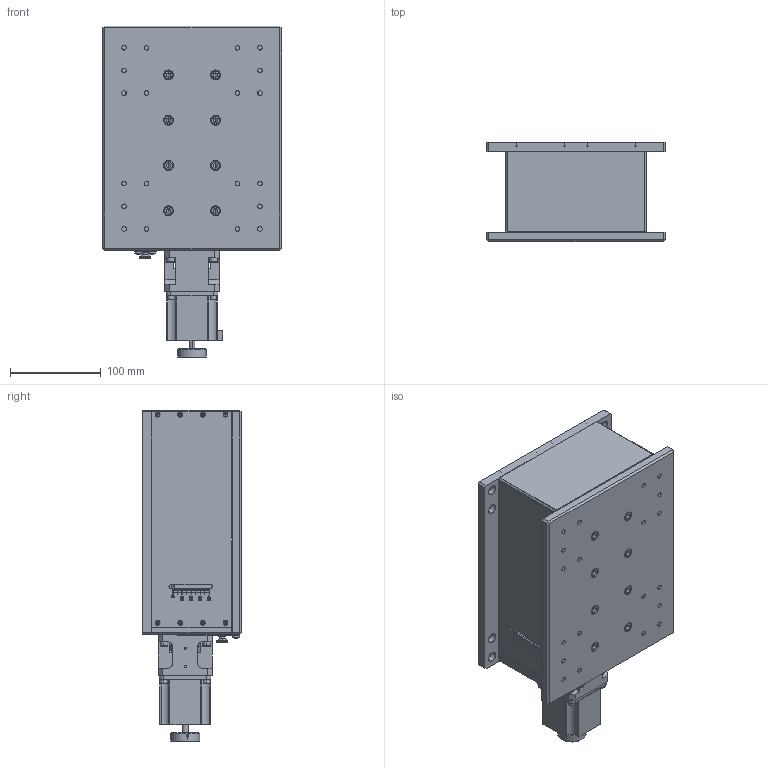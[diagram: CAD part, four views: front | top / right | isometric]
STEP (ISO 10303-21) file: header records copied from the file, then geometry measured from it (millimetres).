
FILE_DESCRIPTION (( 'STEP AP203' ), '1' );
FILE_NAME ('PT-GD198(AP203).STEP', '2025-03-21T10:20:02', ( '' ), ( '' ), 'SwSTEP 2.0', 'SolidWorks 2024', '' );
FILE_SCHEMA (( 'CONFIG_CONTROL_DESIGN' ));
Products named in the file (1): PT-GD198(AP203)
Bounding box: 198 x 109.04 x 366.5 mm (x, y, z)
Surface area: 335879.1 mm2 (no closed solid volume)
Topology: 0 solids, 113 shells, 1111 faces, 4384 edges, 3151 vertices
Faces by surface type: plane 609, cylinder 319, cone 106, torus 72, sphere 4, bspline 1
Entity records: 48051 total; most frequent: CARTESIAN_POINT 11637, DIRECTION 7799, ORIENTED_EDGE 6361, EDGE_CURVE 4330, VERTEX_POINT 3151, VECTOR 2759, LINE 2759, AXIS2_PLACEMENT_3D 2520
